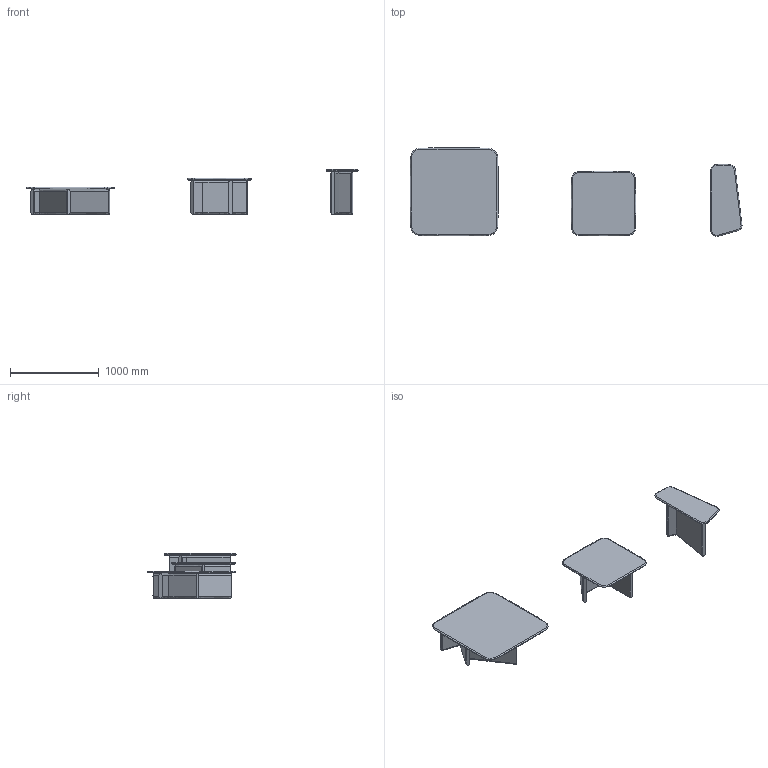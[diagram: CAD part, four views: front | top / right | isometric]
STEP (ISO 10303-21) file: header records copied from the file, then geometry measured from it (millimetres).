
FILE_DESCRIPTION(/* description */ (''),/* implementation_level */ '2;1');
FILE_NAME(/* name */ '3D_TYP~1',/* time_stamp */ '2024-04-29T15:16:07+02:00',/* author */ (''),/* organization */ (''),/* preprocessor_version */ 'ST-DEVELOPER v16.5',/* originating_system */ '',/* authorisation */ '');
FILE_SCHEMA (('AUTOMOTIVE_DESIGN'));
Products named in the file (1): Document
Bounding box: 3740.42 x 997.73 x 508 mm (x, y, z)
Volume: 102519217.7 mm3; surface area: 7398816.7 mm2
Topology: 56 solids, 56 shells, 1447 faces, 3595 edges, 2302 vertices
Faces by surface type: bspline 1145, plane 302
Entity records: 83675 total; most frequent: CARTESIAN_POINT 63298, ORIENTED_EDGE 7190, EDGE_CURVE 3595, VERTEX_POINT 2302, EDGE_LOOP 1489, ADVANCED_FACE 1447, FACE_OUTER_BOUND 1447, B_SPLINE_CURVE_WITH_KNOTS 1320
